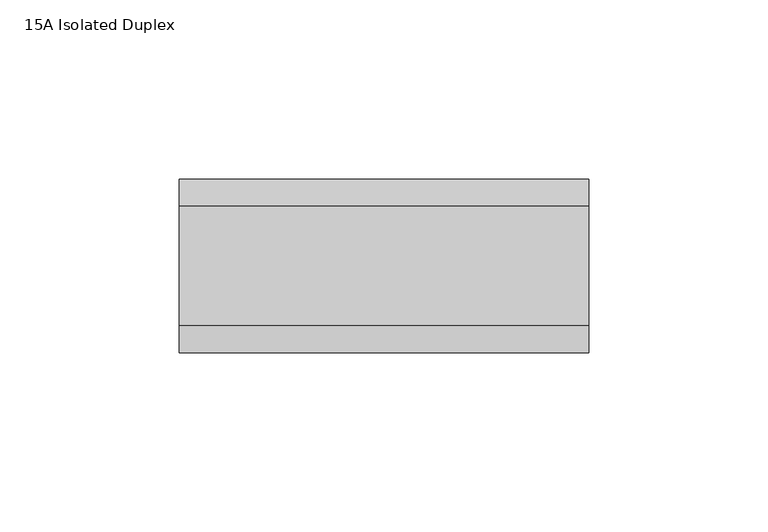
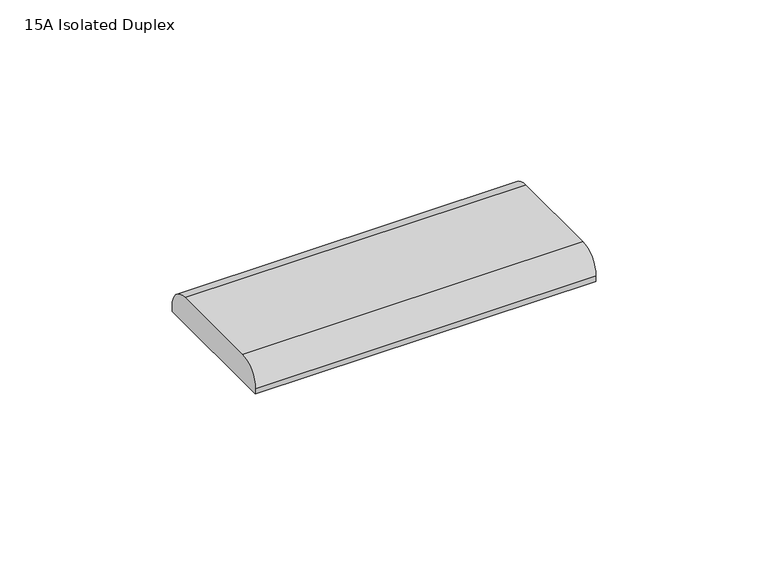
"""IFC4 building model written with IfcOpenShell, lengths in millimetres: proxy geometry, Device_Plate-2400_Series-Wiremold-Bracket_And_Frame : 15A Isolated Duplex."""

from ifc_helpers import new_model, si_unit, point, frame, frame_2d, origin, place, context, project, spatial, polyline, circle_curve, trimmed, segment, composite_curve, outline, extrude, source, transform, mapped, element, save


def proxy_15a_isolated_duplex_497e1978(model_context):
    return source(origin(), model_context, "Body", "SweptSolid", [
        extrude(outline(composite_curve([segment(trimmed(circle_curve(frame_2d((16.589375, 1.905)), 7.62), [point((16.589375, 9.525))], [point((24.209375, 1.905))], False, "CARTESIAN"), True, "CONTINUOUS"), segment(polyline([(24.209375, 1.905), (24.209375, 0.0), (-24.209375, 0.0), (-24.209375, 1.905)]), True, "CONTINUOUS"), segment(trimmed(circle_curve(frame_2d((-16.589375, 1.905)), 7.62), [point((-24.209375, 1.905))], [point((-16.589375, 9.525))], False, "CARTESIAN"), True, "CONTINUOUS"), segment(polyline([(-16.589375, 9.525), (16.589375, 9.525)]), True, "CONTINUOUS")], self_intersect=False)), frame((-57.15, 0.0, 0.0), z_axis=(1.0, 0.0, 0.0), x_axis=(0.0, 1.0, 0.0)), (0.0, 0.0, 1.0), 114.3),
    ])


if __name__ == "__main__":
    model = new_model("IFC4")
    model_context = context("Model", 3, world=origin())
    ifc_project = project(units=[si_unit("LENGTHUNIT", "METRE", prefix="MILLI")], contexts=[model_context])
    site = spatial("IfcSite", under=ifc_project)
    building = spatial("IfcBuilding", under=site)
    placement = place(None, origin())
    proxy_15a_isolated_duplex_shape = proxy_15a_isolated_duplex_497e1978(model_context)
    element("IfcBuildingElementProxy", 1, Name="Device_Plate-2400_Series-Wiremold-Bracket_And_Frame : 15A Isolated Duplex", ObjectType="Device_Plate-2400_Series-Wiremold-Bracket_And_Frame : 15A Isolated Duplex", at=placement, inside=building, context=model_context, shape_type="MappedRepresentation", body=[
        mapped(proxy_15a_isolated_duplex_shape, transform((0.0, 0.0, 0.0), x_axis=(1.0, 0.0, 0.0), y_axis=(0.0, 1.0, 0.0), z_axis=(0.0, 0.0, 1.0))),
    ])
    save(model, "model.ifc")
